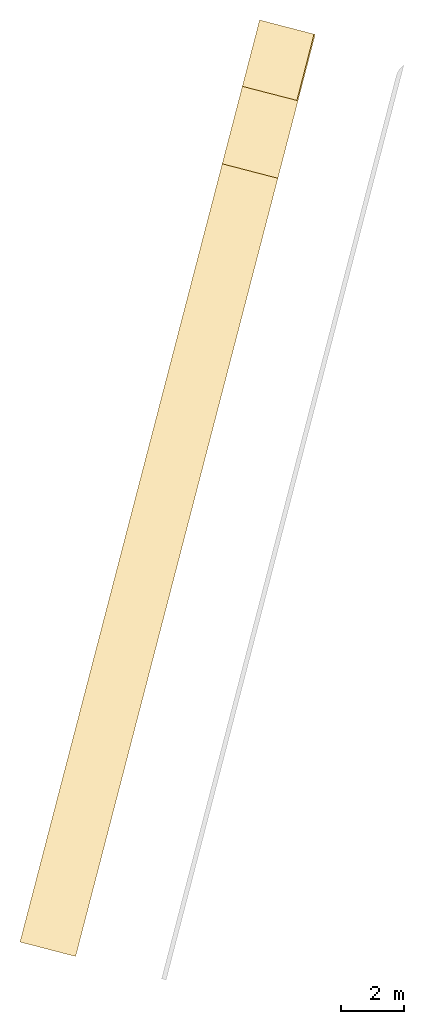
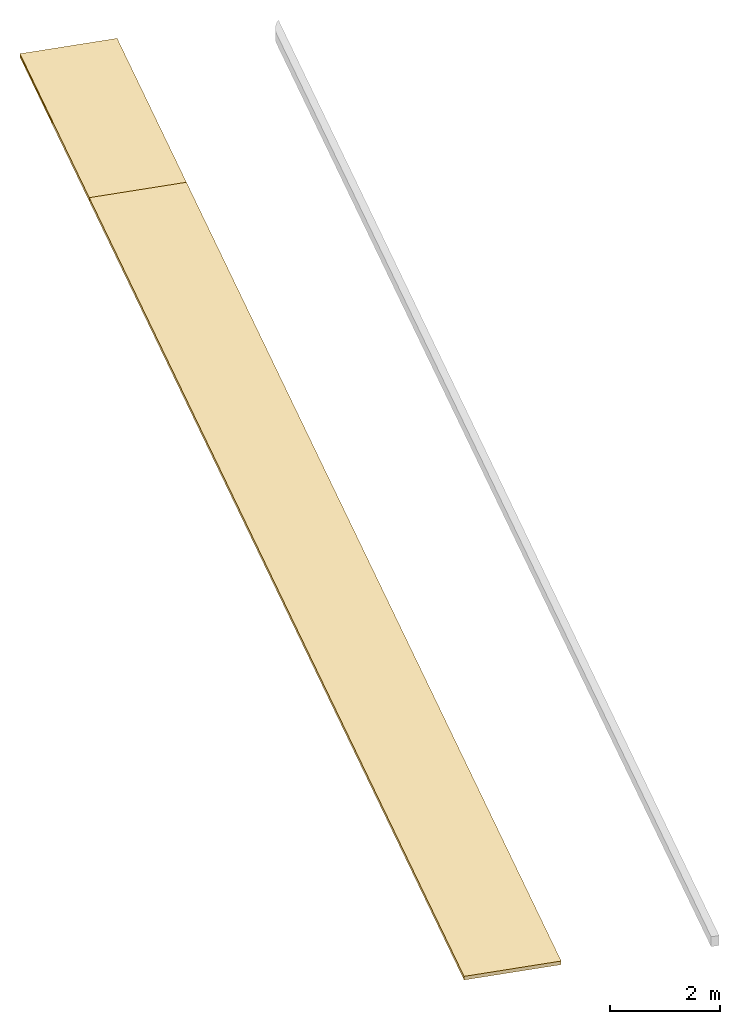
# One storey, part 2 of 2: 3 coverings.
"""IFC2X3 building model written with IfcOpenShell, lengths in millimetres."""

from ifc_helpers import new_model, entity, si_unit, converted_unit, derived_unit, direction, frame, origin, origin_with_axes, place, context, subcontext, project, spatial, faceted_brep, type_object, element, save


model = new_model("IFC2X3")

# Units and contexts
plan_context = context("Plan", 3, precision=1e-05, world=origin_with_axes())
model_context = context("Model", 3, precision=0.01, world=origin(), true_north=direction((6.12323399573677e-17, 1.0)))
body_context = subcontext(model_context, "Body", "Model", "MODEL_VIEW")
ifc_project = project(units=[converted_unit("PLANEANGLEUNIT", "DEGREE", entity("IfcPositiveLengthMeasure", 0.0174532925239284), si_unit("PLANEANGLEUNIT", "RADIAN"), dimensions=[0, 0, 0, 0, 0, 0, 0]), si_unit("AREAUNIT", "SQUARE_METRE"), si_unit("LENGTHUNIT", "METRE", prefix="MILLI"), si_unit("MASSUNIT", "GRAM", prefix="KILO"), si_unit("POWERUNIT", "WATT"), si_unit("PRESSUREUNIT", "PASCAL", prefix="KILO"), si_unit("FORCEUNIT", "NEWTON", prefix="KILO"), si_unit("ELECTRICVOLTAGEUNIT", "VOLT"), si_unit("ELECTRICCURRENTUNIT", "AMPERE"), si_unit("THERMODYNAMICTEMPERATUREUNIT", "DEGREE_CELSIUS"), si_unit("TIMEUNIT", "SECOND"), si_unit("VOLUMEUNIT", "CUBIC_METRE"), derived_unit("LINEARVELOCITYUNIT", [(si_unit("LENGTHUNIT", "METRE"), 1), (si_unit("TIMEUNIT", "SECOND"), -1)]), derived_unit("VOLUMETRICFLOWRATEUNIT", [(si_unit("VOLUMEUNIT", "CUBIC_METRE"), 1), (si_unit("TIMEUNIT", "SECOND"), -1)]), derived_unit("THERMALTRANSMITTANCEUNIT", [(si_unit("POWERUNIT", "WATT"), 1), (si_unit("THERMODYNAMICTEMPERATUREUNIT", "KELVIN"), -1), (si_unit("AREAUNIT", "SQUARE_METRE"), -1)]), derived_unit("SOUNDPRESSUREUNIT", [(si_unit("PRESSUREUNIT", "PASCAL"), 1)])], contexts=[model_context, plan_context])

# Site, building, storey
site_placement = place(None, frame((0.0, -2.21771188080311e-09, 0.0), z_axis=(0.0, 0.0, 1.0), x_axis=(0.266093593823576, -0.963947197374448, 0.0)))
site = spatial("IfcSite", under=ifc_project, at=site_placement, Name="ENZV", CompositionType="ELEMENT")
building_placement = place(site_placement, origin_with_axes())
building = spatial("IfcBuilding", under=site, at=building_placement, Name="ZV001", CompositionType="ELEMENT")
storey_placement = place(building_placement, frame((0.0, 0.0, 9300.0), z_axis=(0.0, 0.0, 1.0), x_axis=(1.0, 0.0, 0.0)))
storey = spatial("IfcBuildingStorey", under=building, at=storey_placement, Name="H02", CompositionType="ELEMENT", Elevation=9300.0)

# Coverings
covering_type_1 = type_object("IfcCoveringType", Name="Compound Ceiling:ENZV_H01_Perf gipshimling 600x600mm", PredefinedType="CEILING")
covering_1_placement = place(storey_placement, origin_with_axes())
element("IfcCovering", 1, at=covering_1_placement, inside=storey, type_object=covering_type_1, Name="Compound Ceiling:ENZV_H01_Perf gipshimling 600x600mm", ObjectType="Compound Ceiling:ENZV_H01_Perf gipshimling 600x600mm", PredefinedType="CEILING", context=body_context, shape_type="Brep", body=[
    faceted_brep([(-155936.018684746, 375553.915010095, -999.987562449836), (-155936.018684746, 375553.915010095, -919.987562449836), (-178144.940410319, 388376.289892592, -919.987562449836), (-178144.940410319, 388376.289892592, -999.987562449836), (-179062.002692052, 386787.891388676, -919.987562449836), (-179062.002692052, 386787.891388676, -999.987562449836), (-156852.618293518, 373966.205470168, -999.987562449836), (-156852.618293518, 373966.205470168, -919.987562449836)], [[[0, 1, 2, 3]], [[4, 5, 3, 2]], [[5, 6, 0, 3]], [[1, 7, 4, 2]], [[7, 1, 0, 6]], [[6, 5, 4, 7]]], orient=[[False], [False], [False], [False], [False], [False]]),
])
covering_2_placement = place(storey_placement, origin_with_axes())
element("IfcCovering", 2, at=covering_2_placement, inside=storey, type_object=covering_type_1, Name="Compound Ceiling:ENZV_H01_Perf gipshimling 600x600mm", ObjectType="Compound Ceiling:ENZV_H01_Perf gipshimling 600x600mm", PredefinedType="CEILING", context=body_context, shape_type="Brep", body=[
    faceted_brep([(-179062.002692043, 386787.891388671, -1000.0), (-179062.002692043, 386787.891388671, -920.0), (-178144.940410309, 388376.289892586, -920.0), (-178144.940410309, 388376.289892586, -1000.0), (-182249.311583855, 390745.958555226, -920.0), (-182249.311583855, 390745.958555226, -1000.0), (-183166.401673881, 389157.399416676, -1000.0), (-183166.401673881, 389157.399416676, -920.0)], [[[0, 1, 2, 3]], [[4, 5, 3, 2]], [[5, 6, 0, 3]], [[1, 7, 4, 2]], [[6, 5, 4, 7]], [[7, 1, 0, 6]]], orient=[[False], [False], [False], [False], [False], [False]]),
])
covering_type_2 = type_object("IfcCoveringType", Name="Compound Ceiling:Systemhimling 600x600mm", PredefinedType="CEILING")
covering_3_placement = place(storey_placement, origin_with_axes())
element("IfcCovering", 3, at=covering_3_placement, inside=storey, type_object=covering_type_2, Name="Compound Ceiling:Systemhimling 600x600mm", ObjectType="Compound Ceiling:Systemhimling 600x600mm", PredefinedType="CEILING", context=body_context, shape_type="Brep", body=[
    faceted_brep([(-181272.713654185, 388064.155561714, -1000.0), (-181272.713654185, 388064.155561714, -948.0), (-180376.318667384, 389621.702023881, -948.0), (-180376.318667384, 389621.702023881, -1000.0), (-182269.382141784, 390711.192866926, -948.0), (-182269.382141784, 390711.192866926, -1000.0), (-183166.401673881, 389157.399416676, -1000.0), (-183166.401673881, 389157.399416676, -948.0)], [[[0, 1, 2, 3]], [[4, 5, 3, 2]], [[5, 6, 0, 3]], [[1, 7, 4, 2]], [[6, 5, 4, 7]], [[7, 1, 0, 6]]], orient=[[False], [False], [False], [False], [False], [False]]),
])

save(model, "model.ifc")
